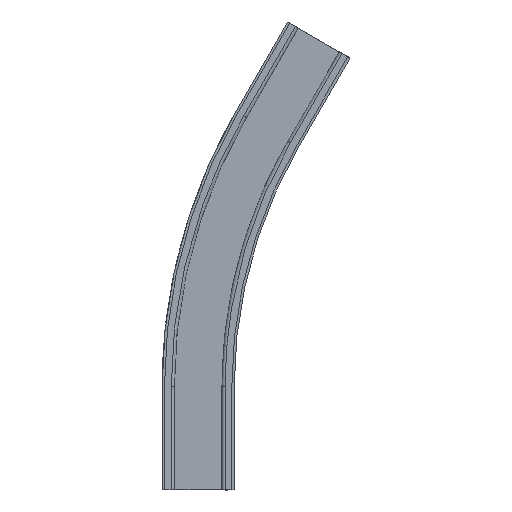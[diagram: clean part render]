
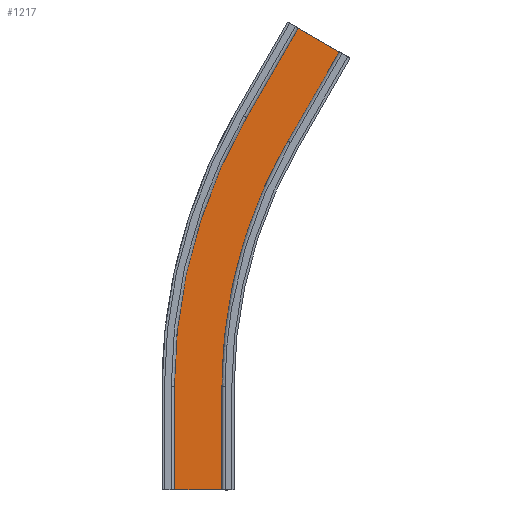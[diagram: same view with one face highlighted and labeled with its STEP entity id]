
A CAD part, front view. The second image highlights one B-rep face of the part: STEP entity #1217.
In plain terms, the highlighted planar face has unit normal (0, -1, 0).
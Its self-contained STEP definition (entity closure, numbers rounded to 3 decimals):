
#545 = DIRECTION ( 'NONE',  ( -1., 0., 0. ) ) ;
#546 = DIRECTION ( 'NONE',  ( 0., 1., 0. ) ) ;
#547 = CARTESIAN_POINT ( 'NONE',  ( -474.889, 246.202, 155.327 ) ) ;
#548 = PLANE ( 'NONE',  #977 ) ;
#669 = DIRECTION ( 'NONE',  ( -1., 0., 0. ) ) ;
#671 = CARTESIAN_POINT ( 'NONE',  ( -474.889, 246.202, 55.327 ) ) ;
#672 = DIRECTION ( 'NONE',  ( 0.866, 0., -0.5 ) ) ;
#673 = CARTESIAN_POINT ( 'NONE',  ( -353.95, 246.202, 506.68 ) ) ;
#676 = DIRECTION ( 'NONE',  ( -0.5, 0., -0.866 ) ) ;
#677 = CARTESIAN_POINT ( 'NONE',  ( -302.854, 246.202, 477.18 ) ) ;
#681 = DIRECTION ( 'NONE',  ( 0., 0., -1. ) ) ;
#682 = CARTESIAN_POINT ( 'NONE',  ( -415.889, 246.202, 155.327 ) ) ;
#690 = CARTESIAN_POINT ( 'NONE',  ( -415.889, 246.202, 155.327 ) ) ;
#691 = CARTESIAN_POINT ( 'NONE',  ( -415.889, 246.202, 238.397 ) ) ;
#692 = CARTESIAN_POINT ( 'NONE',  ( -394.389, 246.202, 318.637 ) ) ;
#693 = CARTESIAN_POINT ( 'NONE',  ( -352.854, 246.202, 390.577 ) ) ;
#706 = DIRECTION ( 'NONE',  ( 0.5, 0., 0.866 ) ) ;
#707 = CARTESIAN_POINT ( 'NONE',  ( -403.95, 246.202, 420.077 ) ) ;
#731 = CARTESIAN_POINT ( 'NONE',  ( -403.95, 246.202, 420.077 ) ) ;
#732 = CARTESIAN_POINT ( 'NONE',  ( -450.693, 246.202, 339.115 ) ) ;
#736 = CARTESIAN_POINT ( 'NONE',  ( -474.889, 246.202, 248.814 ) ) ;
#737 = CARTESIAN_POINT ( 'NONE',  ( -474.889, 246.202, 155.327 ) ) ;
#744 = DIRECTION ( 'NONE',  ( 0., 0., 1. ) ) ;
#745 = CARTESIAN_POINT ( 'NONE',  ( -474.889, 246.202, 155.327 ) ) ;
#977 = AXIS2_PLACEMENT_3D ( 'NONE', #547, #546, #545 ) ;
#1174 =( BOUNDED_CURVE ( )  B_SPLINE_CURVE ( 3, ( #737, #736, #732, #731 ),
 .UNSPECIFIED., .F., .T. ) 
 B_SPLINE_CURVE_WITH_KNOTS ( ( 4, 4 ),
 ( 0., 1. ),
 .UNSPECIFIED. ) 
 CURVE ( )  GEOMETRIC_REPRESENTATION_ITEM ( )  RATIONAL_B_SPLINE_CURVE ( ( 1., 0.977, 0.977, 1. ) ) 
 REPRESENTATION_ITEM ( '' )  );
#1176 =( BOUNDED_CURVE ( )  B_SPLINE_CURVE ( 3, ( #693, #692, #691, #690 ),
 .UNSPECIFIED., .F., .F. ) 
 B_SPLINE_CURVE_WITH_KNOTS ( ( 4, 4 ),
 ( 0., 1. ),
 .UNSPECIFIED. ) 
 CURVE ( )  GEOMETRIC_REPRESENTATION_ITEM ( )  RATIONAL_B_SPLINE_CURVE ( ( 1., 0.977, 0.977, 1. ) ) 
 REPRESENTATION_ITEM ( '' )  );
#1217 = ADVANCED_FACE ( 'NONE', ( #7391 ), #548, .F. ) ;
#1647 = CARTESIAN_POINT ( 'NONE',  ( -415.889, 246.202, 155.327 ) ) ;
#1650 = CARTESIAN_POINT ( 'NONE',  ( -352.854, 246.202, 390.577 ) ) ;
#1651 = CARTESIAN_POINT ( 'NONE',  ( -302.854, 246.202, 477.18 ) ) ;
#1665 = CARTESIAN_POINT ( 'NONE',  ( -474.889, 246.202, 55.327 ) ) ;
#2325 = EDGE_CURVE ( 'NONE', #4490, #3450, #7088, .T. ) ;
#2331 = EDGE_CURVE ( 'NONE', #3450, #4177, #1174, .T. ) ;
#2347 = EDGE_CURVE ( 'NONE', #4177, #4234, #7073, .T. ) ;
#2353 = EDGE_CURVE ( 'NONE', #4505, #4508, #1176, .T. ) ;
#2358 = EDGE_CURVE ( 'NONE', #4508, #4253, #7065, .T. ) ;
#2362 = EDGE_CURVE ( 'NONE', #4504, #4505, #7063, .T. ) ;
#2365 = EDGE_CURVE ( 'NONE', #4234, #4504, #7060, .T. ) ;
#2366 = EDGE_CURVE ( 'NONE', #4253, #4490, #7058, .T. ) ;
#3450 = VERTEX_POINT ( 'NONE', #5840 ) ;
#4177 = VERTEX_POINT ( 'NONE', #6431 ) ;
#4234 = VERTEX_POINT ( 'NONE', #6357 ) ;
#4253 = VERTEX_POINT ( 'NONE', #6333 ) ;
#4490 = VERTEX_POINT ( 'NONE', #1665 ) ;
#4504 = VERTEX_POINT ( 'NONE', #1651 ) ;
#4505 = VERTEX_POINT ( 'NONE', #1650 ) ;
#4508 = VERTEX_POINT ( 'NONE', #1647 ) ;
#4672 = ORIENTED_EDGE ( 'NONE', *, *, #2358, .F. ) ;
#4673 = ORIENTED_EDGE ( 'NONE', *, *, #2353, .F. ) ;
#4674 = ORIENTED_EDGE ( 'NONE', *, *, #2362, .F. ) ;
#4675 = ORIENTED_EDGE ( 'NONE', *, *, #2365, .F. ) ;
#4676 = ORIENTED_EDGE ( 'NONE', *, *, #2347, .F. ) ;
#4677 = ORIENTED_EDGE ( 'NONE', *, *, #2331, .F. ) ;
#4678 = ORIENTED_EDGE ( 'NONE', *, *, #2325, .F. ) ;
#4679 = ORIENTED_EDGE ( 'NONE', *, *, #2366, .F. ) ;
#5840 = CARTESIAN_POINT ( 'NONE',  ( -474.889, 246.202, 155.327 ) ) ;
#6333 = CARTESIAN_POINT ( 'NONE',  ( -415.889, 246.202, 55.327 ) ) ;
#6357 = CARTESIAN_POINT ( 'NONE',  ( -353.95, 246.202, 506.68 ) ) ;
#6431 = CARTESIAN_POINT ( 'NONE',  ( -403.95, 246.202, 420.077 ) ) ;
#7057 = VECTOR ( 'NONE', #669, 1000. ) ;
#7058 = LINE ( 'NONE', #671, #7057 ) ;
#7059 = VECTOR ( 'NONE', #672, 1000. ) ;
#7060 = LINE ( 'NONE', #673, #7059 ) ;
#7061 = VECTOR ( 'NONE', #676, 1000. ) ;
#7063 = LINE ( 'NONE', #677, #7061 ) ;
#7064 = VECTOR ( 'NONE', #681, 1000. ) ;
#7065 = LINE ( 'NONE', #682, #7064 ) ;
#7072 = VECTOR ( 'NONE', #706, 1000. ) ;
#7073 = LINE ( 'NONE', #707, #7072 ) ;
#7087 = VECTOR ( 'NONE', #744, 1000. ) ;
#7088 = LINE ( 'NONE', #745, #7087 ) ;
#7391 = FACE_OUTER_BOUND ( 'NONE', #7589, .T. ) ;
#7589 = EDGE_LOOP ( 'NONE', ( #4672, #4673, #4674, #4675, #4676, #4677, #4678, #4679 ) ) ;
